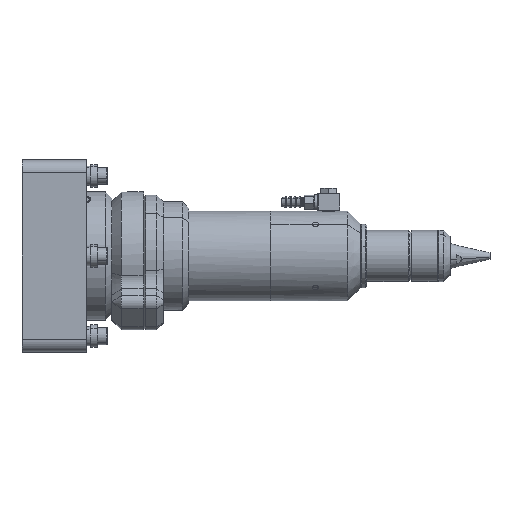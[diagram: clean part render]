
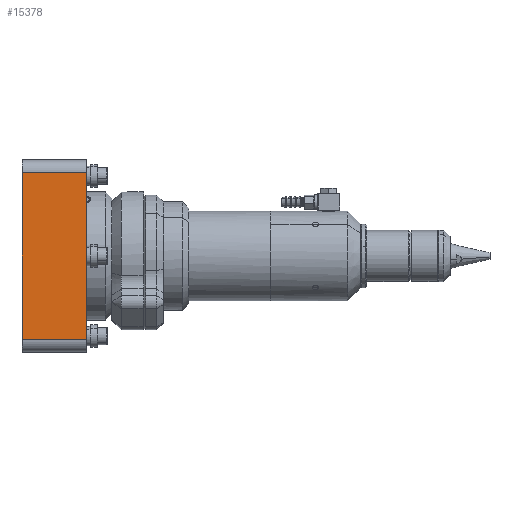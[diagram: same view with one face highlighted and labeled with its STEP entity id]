
A CAD part, left-side view. The second image highlights one B-rep face of the part: STEP entity #15378.
In plain terms, the highlighted planar face has unit normal (-1, 0, 0).
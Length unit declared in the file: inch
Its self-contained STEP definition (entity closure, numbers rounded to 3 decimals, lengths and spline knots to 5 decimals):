
#143 = VERTEX_POINT ( 'NONE', #14126 ) ;
#438 = CARTESIAN_POINT ( 'NONE',  ( -1.875, 1.25, -1.625 ) ) ;
#935 = CARTESIAN_POINT ( 'NONE',  ( -1.875, 1.25, -1.875 ) ) ;
#1536 = DIRECTION ( 'NONE',  ( 0., 0., 1. ) ) ;
#2272 = LINE ( 'NONE', #5724, #8040 ) ;
#2803 = DIRECTION ( 'NONE',  ( 0., 0., 1. ) ) ;
#2830 = VERTEX_POINT ( 'NONE', #438 ) ;
#2887 = LINE ( 'NONE', #5512, #19899 ) ;
#3299 = EDGE_CURVE ( 'Defeatured_0_14+Defeatured_0_15+Defeatured_0_23+Defeatured_0_24', #2830, #13590, #13432, .T. ) ;
#3510 = ORIENTED_EDGE ( 'NONE', *, *, #10732, .T. ) ;
#3662 = LINE ( 'NONE', #6090, #8387 ) ;
#5512 = CARTESIAN_POINT ( 'NONE',  ( -1.875, 1.25, -1.625 ) ) ;
#5637 = ORIENTED_EDGE ( 'NONE', *, *, #13640, .T. ) ;
#5724 = CARTESIAN_POINT ( 'NONE',  ( -1.875, 1.25, 1.625 ) ) ;
#6090 = CARTESIAN_POINT ( 'NONE',  ( -1.875, 0., -1.875 ) ) ;
#6950 = EDGE_CURVE ( 'Defeatured_0_15+Defeatured_0_23+Defeatured_0_14+Defeatured_0_19', #2830, #14557, #2887, .T. ) ;
#7597 = PLANE ( 'NONE',  #7886 ) ;
#7886 = AXIS2_PLACEMENT_3D ( 'NONE', #935, #14392, #17681 ) ;
#8004 = FACE_OUTER_BOUND ( 'NONE', #10680, .T. ) ;
#8040 = VECTOR ( 'NONE', #12661, 39.37008 ) ;
#8387 = VECTOR ( 'NONE', #2803, 39.37008 ) ;
#10680 = EDGE_LOOP ( 'NONE', ( #13280, #17776, #3510, #5637 ) ) ;
#10732 = EDGE_CURVE ( 'Defeatured_0_15+Defeatured_0_19+Defeatured_0_23+Defeatured_0_24', #14557, #143, #3662, .T. ) ;
#10812 = VECTOR ( 'NONE', #1536, 39.37008 ) ;
#11336 = CARTESIAN_POINT ( 'NONE',  ( -1.875, 1.25, -1.875 ) ) ;
#12661 = DIRECTION ( 'NONE',  ( 0., 1., 0. ) ) ;
#13280 = ORIENTED_EDGE ( 'NONE', *, *, #3299, .F. ) ;
#13432 = LINE ( 'NONE', #11336, #10812 ) ;
#13590 = VERTEX_POINT ( 'NONE', #17194 ) ;
#13640 = EDGE_CURVE ( 'Defeatured_0_15+Defeatured_0_24+Defeatured_0_19+Defeatured_0_14', #143, #13590, #2272, .T. ) ;
#13769 = DIRECTION ( 'NONE',  ( 0., -1., 0. ) ) ;
#14126 = CARTESIAN_POINT ( 'NONE',  ( -1.875, 0., 1.625 ) ) ;
#14392 = DIRECTION ( 'NONE',  ( 1., 0., 0. ) ) ;
#14557 = VERTEX_POINT ( 'NONE', #15802 ) ;
#15378 = ADVANCED_FACE ( 'Defeatured_0_15', ( #8004 ), #7597, .F. ) ;
#15802 = CARTESIAN_POINT ( 'NONE',  ( -1.875, 0., -1.625 ) ) ;
#17194 = CARTESIAN_POINT ( 'NONE',  ( -1.875, 1.25, 1.625 ) ) ;
#17681 = DIRECTION ( 'NONE',  ( 0., 0., -1. ) ) ;
#17776 = ORIENTED_EDGE ( 'NONE', *, *, #6950, .T. ) ;
#19899 = VECTOR ( 'NONE', #13769, 39.37008 ) ;
